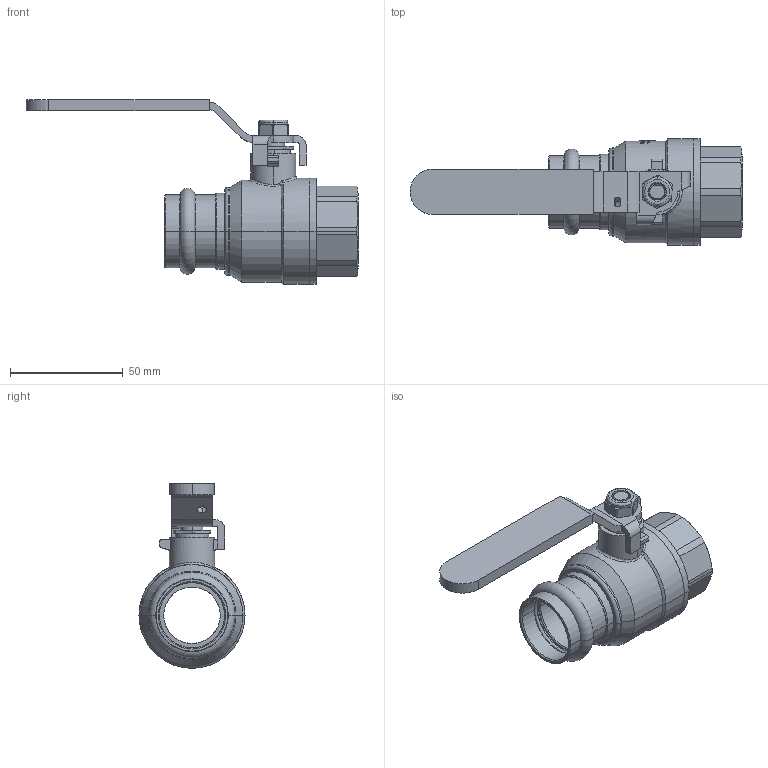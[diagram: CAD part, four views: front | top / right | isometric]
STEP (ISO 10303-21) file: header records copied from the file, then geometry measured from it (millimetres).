
FILE_DESCRIPTION(('Open CASCADE Model'),'2;1');
FILE_NAME('Open CASCADE Shape Model','2022-02-10T07:14:35',('Author'),( 'Open CASCADE'),'Open CASCADE STEP processor 7.3','Open CASCADE 7.3' ,'Unknown');
FILE_SCHEMA(('AUTOMOTIVE_DESIGN { 1 0 10303 214 1 1 1 1 }'));
Length unit declared in the file: millimetre
Products named in the file (13): Open CASCADE STEP translator 7.3 1; Open CASCADE STEP translator 7.3 1.1; Open CASCADE STEP translator 7.3 1.2; Open CASCADE STEP translator 7.3 1.3; Open CASCADE STEP translator 7.3 1.4; Open CASCADE STEP translator 7.3 1.5; Open CASCADE STEP translator 7.3 1.6; Open CASCADE STEP translator 7.3 1.7; Open CASCADE STEP translator 7.3 1.8; Open CASCADE STEP translator 7.3 1.9; Open CASCADE STEP translator 7.3 1.10; Open CASCADE STEP translator 7.3 1.11; Open CASCADE STEP translator 7.3 1.12
Assembly tree (12 placements, depth 2):
  Open CASCADE STEP translator 7.3 1
    Open CASCADE STEP translator 7.3 1.1
    Open CASCADE STEP translator 7.3 1.2
    Open CASCADE STEP translator 7.3 1.3
    Open CASCADE STEP translator 7.3 1.4
    Open CASCADE STEP translator 7.3 1.5
    Open CASCADE STEP translator 7.3 1.6
    Open CASCADE STEP translator 7.3 1.7
    Open CASCADE STEP translator 7.3 1.8
    Open CASCADE STEP translator 7.3 1.9
    Open CASCADE STEP translator 7.3 1.10
    Open CASCADE STEP translator 7.3 1.11
    Open CASCADE STEP translator 7.3 1.12
Bounding box: 147 x 47 x 81.75 mm (x, y, z)
Volume: 70535.9 mm3; surface area: 49418.1 mm2
Topology: 12 solids, 12 shells, 584 faces, 1522 edges, 985 vertices
Faces by surface type: cylinder 190, plane 149, bspline 117, cone 88, torus 34, sphere 6
Entity records: 102613 total; most frequent: CARTESIAN_POINT 75436, DIRECTION 4076, ORIENTED_EDGE 3040, PCURVE 3040, DEFINITIONAL_REPRESENTATION 3040, LINE 2035, VECTOR 2035, B_SPLINE_CURVE_WITH_KNOTS 1604
